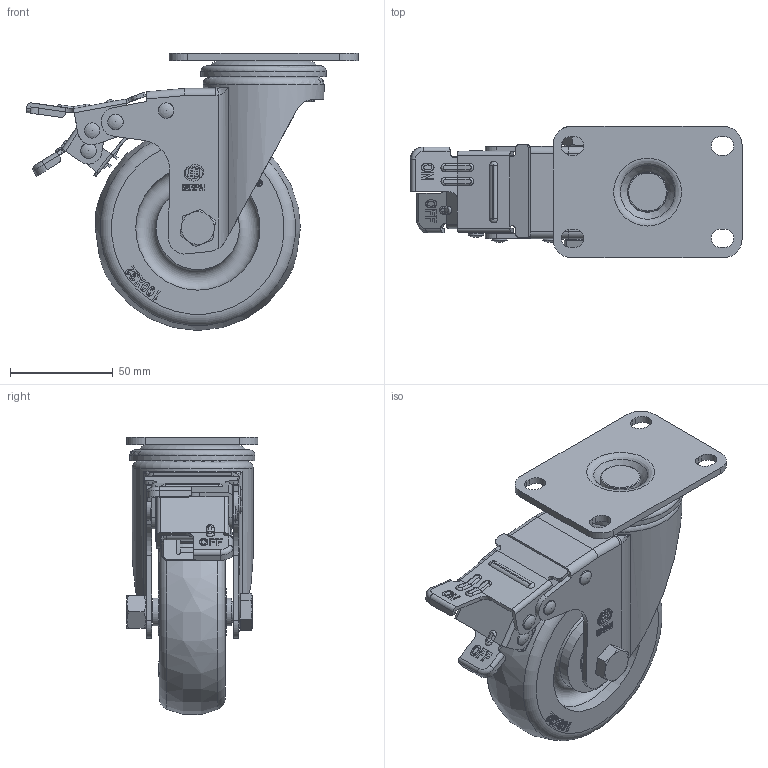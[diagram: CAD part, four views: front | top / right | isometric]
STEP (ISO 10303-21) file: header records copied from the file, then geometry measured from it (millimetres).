
FILE_DESCRIPTION(/* description */ (''),/* implementation_level */ '2;1');
FILE_NAME(/* name */ '20A5B_4_F.stp',/* time_stamp */ '2022-09-03T09:59:32+08:00',/* author */ (''),/* organization */ (''),/* preprocessor_version */ 'ST-DEVELOPER v14',/* originating_system */ 'SIEMENS PLM Software NX 8.0',/* authorisation */ '');
FILE_SCHEMA (('AUTOMOTIVE_DESIGN { 1 0 10303 214 3 1 1 1 }'));
Length unit declared in the file: millimetre
Products named in the file (1): 20A5B_4_F
Bounding box: 161.7 x 64.25 x 134.93 mm (x, y, z)
Volume: 299343.6 mm3; surface area: 105252.5 mm2
Topology: 1 solids, 1 shells, 1207 faces, 3332 edges, 2198 vertices
Faces by surface type: plane 672, cylinder 325, torus 59, sphere 42, bspline 37, cone 36, extrusion 36
Full cylindrical faces by diameter (mm): 2.841 x1, 3.44 x1, 4 x4, 5 x6, 5.2 x14, 7.5 x3, 10 x2, 10.2 x2, 12 x1, 12.2 x1, 12.496 x1, 13.6 x2, 16 x1, 23 x2, 30.122 x1, 40.5 x2, 45.996 x1, 54 x1, 56 x1, 59 x1, 60.5 x2, 61 x1
Entity records: 43471 total; most frequent: CARTESIAN_POINT 14709, ORIENTED_EDGE 6124, DIRECTION 5486, EDGE_CURVE 3062, VERTEX_POINT 2072, AXIS2_PLACEMENT_3D 1892, VECTOR 1702, LINE 1666
